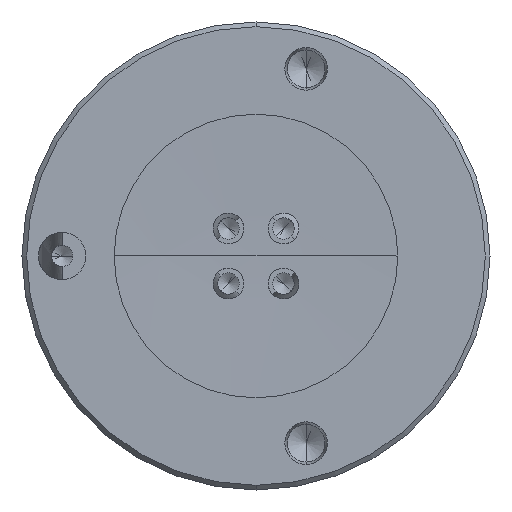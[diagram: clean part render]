
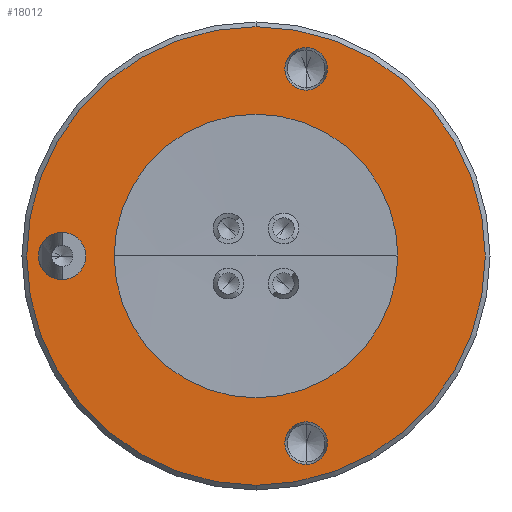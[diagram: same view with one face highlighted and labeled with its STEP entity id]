
A CAD part, left-side view. The second image highlights one B-rep face of the part: STEP entity #18012.
In plain terms, the highlighted planar face has unit normal (-1, 0, 0).
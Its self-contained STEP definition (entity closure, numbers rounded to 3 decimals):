
#2399=CARTESIAN_POINT('',(-12.5,0.,0.));
#2400=DIRECTION('',(1.,0.,0.));
#2401=DIRECTION('',(0.,0.,-1.));
#2402=AXIS2_PLACEMENT_3D('',#2399,#2400,#2401);
#2404=CARTESIAN_POINT('',(-12.5,0.,0.));
#2405=DIRECTION('',(1.,0.,0.));
#2406=DIRECTION('',(0.,1.,0.));
#2407=AXIS2_PLACEMENT_3D('',#2404,#2405,#2406);
#2409=CARTESIAN_POINT('',(-12.5,0.,0.));
#2410=DIRECTION('',(1.,0.,0.));
#2411=DIRECTION('',(0.,0.,1.));
#2412=AXIS2_PLACEMENT_3D('',#2409,#2410,#2411);
#2414=CARTESIAN_POINT('',(-12.5,0.,0.));
#2415=DIRECTION('',(1.,0.,0.));
#2416=DIRECTION('',(0.,-1.,0.));
#2417=AXIS2_PLACEMENT_3D('',#2414,#2415,#2416);
#2419=CARTESIAN_POINT('',(-12.5,0.,0.));
#2420=DIRECTION('',(-1.,0.,0.));
#2421=DIRECTION('',(0.,0.,-1.));
#2422=AXIS2_PLACEMENT_3D('',#2419,#2420,#2421);
#2424=CARTESIAN_POINT('',(-12.5,0.,0.));
#2425=DIRECTION('',(-1.,0.,0.));
#2426=DIRECTION('',(0.,0.,1.));
#2427=AXIS2_PLACEMENT_3D('',#2424,#2425,#2426);
#2429=CARTESIAN_POINT('',(-12.5,4.1,0.));
#2430=DIRECTION('',(-1.,0.,0.));
#2431=DIRECTION('',(0.,0.,1.));
#2432=AXIS2_PLACEMENT_3D('',#2429,#2430,#2431);
#2434=CARTESIAN_POINT('',(-12.5,4.1,0.));
#2435=DIRECTION('',(-1.,0.,0.));
#2436=DIRECTION('',(0.,1.,0.));
#2437=AXIS2_PLACEMENT_3D('',#2434,#2435,#2436);
#2439=CARTESIAN_POINT('',(-12.5,4.1,0.));
#2440=DIRECTION('',(-1.,0.,0.));
#2441=DIRECTION('',(0.,0.,-1.));
#2442=AXIS2_PLACEMENT_3D('',#2439,#2440,#2441);
#2444=CARTESIAN_POINT('',(-12.5,4.1,0.));
#2445=DIRECTION('',(-1.,0.,0.));
#2446=DIRECTION('',(0.,-1.,0.));
#2447=AXIS2_PLACEMENT_3D('',#2444,#2445,#2446);
#2449=CARTESIAN_POINT('',(-12.5,-1.061,-3.96));
#2450=DIRECTION('',(-1.,0.,0.));
#2451=DIRECTION('',(0.,0.,1.));
#2452=AXIS2_PLACEMENT_3D('',#2449,#2450,#2451);
#2454=CARTESIAN_POINT('',(-12.5,-1.061,-3.96));
#2455=DIRECTION('',(-1.,0.,0.));
#2456=DIRECTION('',(0.,1.,0.));
#2457=AXIS2_PLACEMENT_3D('',#2454,#2455,#2456);
#2459=CARTESIAN_POINT('',(-12.5,-1.061,-3.96));
#2460=DIRECTION('',(-1.,0.,0.));
#2461=DIRECTION('',(0.,0.,-1.));
#2462=AXIS2_PLACEMENT_3D('',#2459,#2460,#2461);
#2464=CARTESIAN_POINT('',(-12.5,-1.061,-3.96));
#2465=DIRECTION('',(-1.,0.,0.));
#2466=DIRECTION('',(0.,-1.,0.));
#2467=AXIS2_PLACEMENT_3D('',#2464,#2465,#2466);
#2469=CARTESIAN_POINT('',(-12.5,-1.061,3.96));
#2470=DIRECTION('',(-1.,0.,0.));
#2471=DIRECTION('',(0.,0.,1.));
#2472=AXIS2_PLACEMENT_3D('',#2469,#2470,#2471);
#2474=CARTESIAN_POINT('',(-12.5,-1.061,3.96));
#2475=DIRECTION('',(-1.,0.,0.));
#2476=DIRECTION('',(0.,1.,0.));
#2477=AXIS2_PLACEMENT_3D('',#2474,#2475,#2476);
#2479=CARTESIAN_POINT('',(-12.5,-1.061,3.96));
#2480=DIRECTION('',(-1.,0.,0.));
#2481=DIRECTION('',(0.,0.,-1.));
#2482=AXIS2_PLACEMENT_3D('',#2479,#2480,#2481);
#2484=CARTESIAN_POINT('',(-12.5,-1.061,3.96));
#2485=DIRECTION('',(-1.,0.,0.));
#2486=DIRECTION('',(0.,-1.,0.));
#2487=AXIS2_PLACEMENT_3D('',#2484,#2485,#2486);
#6484=CARTESIAN_POINT('',(-12.5,-4.85,0.));
#6485=CARTESIAN_POINT('',(-12.5,0.,-4.85));
#6486=VERTEX_POINT('',#6484);
#6487=VERTEX_POINT('',#6485);
#6488=CARTESIAN_POINT('',(-12.5,0.,4.85));
#6489=VERTEX_POINT('',#6488);
#6490=CARTESIAN_POINT('',(-12.5,4.85,0.));
#6491=VERTEX_POINT('',#6490);
#6492=CARTESIAN_POINT('',(-12.5,0.,-3.));
#6493=CARTESIAN_POINT('',(-12.5,0.,3.));
#6494=VERTEX_POINT('',#6492);
#6495=VERTEX_POINT('',#6493);
#6496=CARTESIAN_POINT('',(-12.5,4.551,0.));
#6497=CARTESIAN_POINT('',(-12.5,4.1,-0.451));
#6498=VERTEX_POINT('',#6496);
#6499=VERTEX_POINT('',#6497);
#6500=CARTESIAN_POINT('',(-12.5,4.1,0.451));
#6501=VERTEX_POINT('',#6500);
#6502=CARTESIAN_POINT('',(-12.5,3.649,0.));
#6503=VERTEX_POINT('',#6502);
#6504=CARTESIAN_POINT('',(-12.5,-0.61,-3.96));
#6505=CARTESIAN_POINT('',(-12.5,-1.061,-4.411));
#6506=VERTEX_POINT('',#6504);
#6507=VERTEX_POINT('',#6505);
#6508=CARTESIAN_POINT('',(-12.5,-1.061,-3.509));
#6509=VERTEX_POINT('',#6508);
#6510=CARTESIAN_POINT('',(-12.5,-1.512,-3.96));
#6511=VERTEX_POINT('',#6510);
#6512=CARTESIAN_POINT('',(-12.5,-0.61,3.96));
#6513=CARTESIAN_POINT('',(-12.5,-1.061,3.509));
#6514=VERTEX_POINT('',#6512);
#6515=VERTEX_POINT('',#6513);
#6516=CARTESIAN_POINT('',(-12.5,-1.061,4.411));
#6517=VERTEX_POINT('',#6516);
#6518=CARTESIAN_POINT('',(-12.5,-1.512,3.96));
#6519=VERTEX_POINT('',#6518);
#17963=CARTESIAN_POINT('',(-12.5,0.,0.));
#17964=DIRECTION('',(1.,0.,0.));
#17965=DIRECTION('',(0.,0.,-1.));
#17966=AXIS2_PLACEMENT_3D('',#17963,#17964,#17965);
#17967=PLANE('',#17966);
#17969=ORIENTED_EDGE('',*,*,#17968,.T.);
#17971=ORIENTED_EDGE('',*,*,#17970,.T.);
#17972=ORIENTED_EDGE('',*,*,#17945,.T.);
#17973=ORIENTED_EDGE('',*,*,#17943,.T.);
#17974=EDGE_LOOP('',(#17969,#17971,#17972,#17973));
#17975=FACE_OUTER_BOUND('',#17974,.F.);
#17977=ORIENTED_EDGE('',*,*,#17976,.T.);
#17979=ORIENTED_EDGE('',*,*,#17978,.T.);
#17980=EDGE_LOOP('',(#17977,#17979));
#17981=FACE_BOUND('',#17980,.F.);
#17983=ORIENTED_EDGE('',*,*,#17982,.T.);
#17985=ORIENTED_EDGE('',*,*,#17984,.T.);
#17987=ORIENTED_EDGE('',*,*,#17986,.T.);
#17989=ORIENTED_EDGE('',*,*,#17988,.T.);
#17990=EDGE_LOOP('',(#17983,#17985,#17987,#17989));
#17991=FACE_BOUND('',#17990,.F.);
#17993=ORIENTED_EDGE('',*,*,#17992,.T.);
#17995=ORIENTED_EDGE('',*,*,#17994,.T.);
#17997=ORIENTED_EDGE('',*,*,#17996,.T.);
#17999=ORIENTED_EDGE('',*,*,#17998,.T.);
#18000=EDGE_LOOP('',(#17993,#17995,#17997,#17999));
#18001=FACE_BOUND('',#18000,.F.);
#18003=ORIENTED_EDGE('',*,*,#18002,.T.);
#18005=ORIENTED_EDGE('',*,*,#18004,.T.);
#18007=ORIENTED_EDGE('',*,*,#18006,.T.);
#18009=ORIENTED_EDGE('',*,*,#18008,.T.);
#18010=EDGE_LOOP('',(#18003,#18005,#18007,#18009));
#18011=FACE_BOUND('',#18010,.F.);
#2403=CIRCLE('',#2402,4.85);
#2408=CIRCLE('',#2407,4.85);
#2413=CIRCLE('',#2412,4.85);
#2418=CIRCLE('',#2417,4.85);
#2423=CIRCLE('',#2422,3.);
#2428=CIRCLE('',#2427,3.);
#2433=CIRCLE('',#2432,0.451);
#2438=CIRCLE('',#2437,0.451);
#2443=CIRCLE('',#2442,0.451);
#2448=CIRCLE('',#2447,0.451);
#2453=CIRCLE('',#2452,0.451);
#2458=CIRCLE('',#2457,0.451);
#2463=CIRCLE('',#2462,0.451);
#2468=CIRCLE('',#2467,0.451);
#2473=CIRCLE('',#2472,0.451);
#2478=CIRCLE('',#2477,0.451);
#2483=CIRCLE('',#2482,0.451);
#2488=CIRCLE('',#2487,0.451);
#17943=EDGE_CURVE('',#6486,#6487,#2418,.T.);
#17945=EDGE_CURVE('',#6489,#6486,#2413,.T.);
#17968=EDGE_CURVE('',#6487,#6491,#2403,.T.);
#17970=EDGE_CURVE('',#6491,#6489,#2408,.T.);
#17976=EDGE_CURVE('',#6494,#6495,#2423,.T.);
#17978=EDGE_CURVE('',#6495,#6494,#2428,.T.);
#17982=EDGE_CURVE('',#6501,#6498,#2433,.T.);
#17984=EDGE_CURVE('',#6498,#6499,#2438,.T.);
#17986=EDGE_CURVE('',#6499,#6503,#2443,.T.);
#17988=EDGE_CURVE('',#6503,#6501,#2448,.T.);
#17992=EDGE_CURVE('',#6509,#6506,#2453,.T.);
#17994=EDGE_CURVE('',#6506,#6507,#2458,.T.);
#17996=EDGE_CURVE('',#6507,#6511,#2463,.T.);
#17998=EDGE_CURVE('',#6511,#6509,#2468,.T.);
#18002=EDGE_CURVE('',#6517,#6514,#2473,.T.);
#18004=EDGE_CURVE('',#6514,#6515,#2478,.T.);
#18006=EDGE_CURVE('',#6515,#6519,#2483,.T.);
#18008=EDGE_CURVE('',#6519,#6517,#2488,.T.);
#18012=ADVANCED_FACE('',(#17975,#17981,#17991,#18001,#18011),#17967,.F.);
